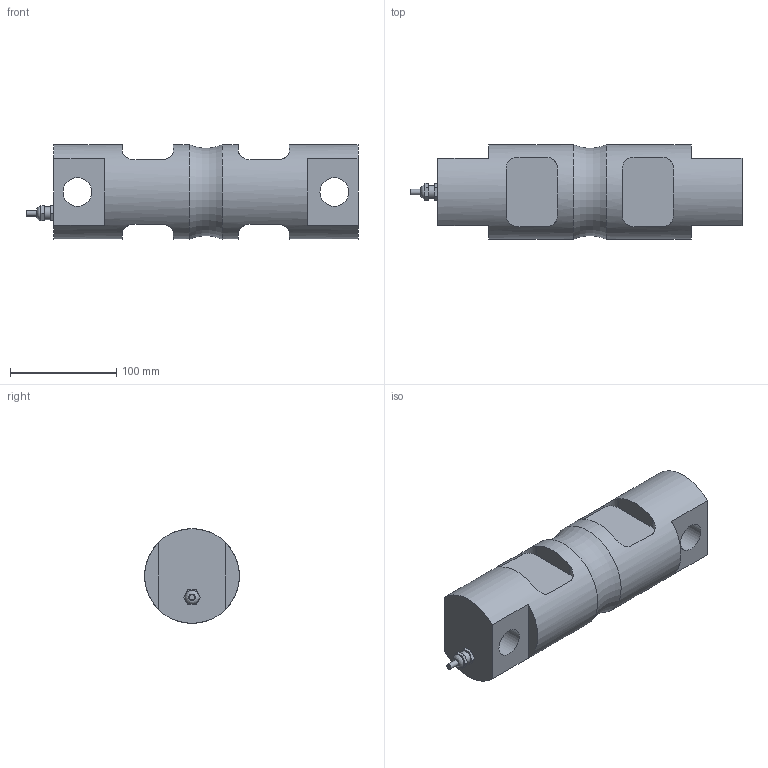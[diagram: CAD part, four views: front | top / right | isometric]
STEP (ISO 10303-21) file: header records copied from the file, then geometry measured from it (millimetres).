
FILE_DESCRIPTION(/* description */ (''),/* implementation_level */ '2;1');
FILE_NAME(/* name */ 'C:/Users/fardi/Dropbox/Anyload/Load Cell Models/3D Drawing/102/102DH/102DH-100klb v2.step',/* time_stamp */ '2020-01-24T13:31:47-08:00',/* author */ (''),/* organization */ (''),/* preprocessor_version */ 'ST-DEVELOPER v18',/* originating_system */ 'Autodesk Translation Framework v8.12.0.6',/* authorisation */ '');
FILE_SCHEMA (('AUTOMOTIVE_DESIGN { 1 0 10303 214 3 1 1 }'));
Length unit declared in the file: inch
Products named in the file (2): 102DH-100klb; Connector
Assembly tree (1 placements, depth 2):
  102DH-100klb
    Connector
Bounding box: 311.78 x 88.9 x 88.9 mm (x, y, z)
Volume: 1431427.2 mm3; surface area: 106585.6 mm2
Topology: 2 solids, 2 shells, 77 faces, 196 edges, 130 vertices
Faces by surface type: plane 49, cylinder 25, bspline 1, cone 1, torus 1
Full cylindrical faces by diameter (mm): 5.1 x1, 10 x1, 12 x2, 13 x1, 26.924 x2, 88.9 x2
Entity records: 2558 total; most frequent: CARTESIAN_POINT 607, DIRECTION 396, ORIENTED_EDGE 390, EDGE_CURVE 195, AXIS2_PLACEMENT_3D 138, VERTEX_POINT 130, LINE 120, VECTOR 120
